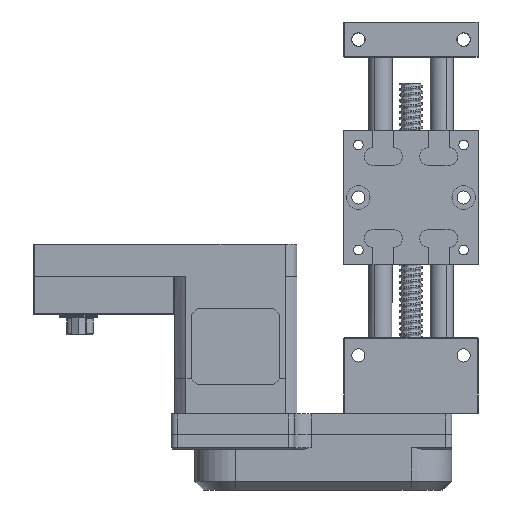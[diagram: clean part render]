
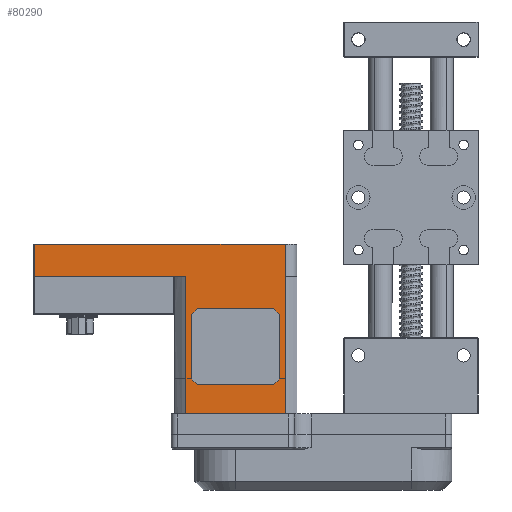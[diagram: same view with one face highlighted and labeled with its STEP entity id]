
A CAD part, front view. The second image highlights one B-rep face of the part: STEP entity #80290.
In plain terms, the highlighted planar face has unit normal (0, -1, 0) as drawn and (-1, 0, 0) by its records, which use the part's own axes.
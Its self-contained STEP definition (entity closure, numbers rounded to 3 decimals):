
#110 = LINE ( 'NONE', #95383, #63717 ) ;
#264 = AXIS2_PLACEMENT_3D ( 'NONE', #50051, #100090, #50771 ) ;
#987 = CARTESIAN_POINT ( 'NONE',  ( -21., 11., -45. ) ) ;
#1000 = FACE_BOUND ( 'NONE', #31227, .T. ) ;
#3005 = CARTESIAN_POINT ( 'NONE',  ( -21., 22., -11. ) ) ;
#3567 = FACE_OUTER_BOUND ( 'NONE', #40753, .T. ) ;
#3728 = DIRECTION ( 'NONE',  ( 0., 0., 1. ) ) ;
#4509 = CARTESIAN_POINT ( 'NONE',  ( -21., 11., -7.029 ) ) ;
#4748 = ORIENTED_EDGE ( 'NONE', *, *, #24970, .T. ) ;
#5518 = VECTOR ( 'NONE', #3728, 1000. ) ;
#6666 = LINE ( 'NONE', #40481, #48309 ) ;
#7644 = ORIENTED_EDGE ( 'NONE', *, *, #45178, .T. ) ;
#7650 = CARTESIAN_POINT ( 'NONE',  ( -21., 0., -7.029 ) ) ;
#8156 = LINE ( 'NONE', #28859, #5518 ) ;
#9013 = DIRECTION ( 'NONE',  ( 0., -1., 0. ) ) ;
#10198 = VECTOR ( 'NONE', #84302, 1000. ) ;
#11152 = CARTESIAN_POINT ( 'NONE',  ( -21., 58., -45. ) ) ;
#13876 = VERTEX_POINT ( 'NONE', #47926 ) ;
#14708 = VECTOR ( 'NONE', #97540, 1000. ) ;
#15670 = ORIENTED_EDGE ( 'NONE', *, *, #93920, .T. ) ;
#16004 = DIRECTION ( 'NONE',  ( 0., 1., 0. ) ) ;
#16561 = ORIENTED_EDGE ( 'NONE', *, *, #43755, .T. ) ;
#16915 = VECTOR ( 'NONE', #19567, 1000. ) ;
#17502 = VERTEX_POINT ( 'NONE', #67533 ) ;
#18711 = CARTESIAN_POINT ( 'NONE',  ( -21., 22., -45. ) ) ;
#19180 = CARTESIAN_POINT ( 'NONE',  ( -21., 0., -41. ) ) ;
#19567 = DIRECTION ( 'NONE',  ( 0., 0., -1. ) ) ;
#21890 = LINE ( 'NONE', #83255, #63383 ) ;
#22248 = LINE ( 'NONE', #51594, #83108 ) ;
#22589 = CARTESIAN_POINT ( 'NONE',  ( -20.999, 24.002, -8.999 ) ) ;
#24970 = EDGE_CURVE ( 'NONE', #17502, #36876, #63575, .T. ) ;
#26265 = EDGE_CURVE ( 'NONE', #44127, #49669, #100788, .T. ) ;
#26712 = CARTESIAN_POINT ( 'NONE',  ( -21., 48., -37. ) ) ;
#27085 = DIRECTION ( 'NONE',  ( 0., 0., -1. ) ) ;
#27488 = DIRECTION ( 'NONE',  ( 0., 0., 1. ) ) ;
#27538 = DIRECTION ( 'NONE',  ( 0., -1., 0. ) ) ;
#28859 = CARTESIAN_POINT ( 'NONE',  ( -21., 0., 0. ) ) ;
#30180 = ORIENTED_EDGE ( 'NONE', *, *, #93456, .T. ) ;
#30730 = LINE ( 'NONE', #26712, #94014 ) ;
#31227 = EDGE_LOOP ( 'NONE', ( #67932, #82572, #7644, #60537, #67137, #4748, #30180, #16561 ) ) ;
#31504 = CARTESIAN_POINT ( 'NONE',  ( -21., 24., -39. ) ) ;
#35124 = VERTEX_POINT ( 'NONE', #66653 ) ;
#36094 = EDGE_CURVE ( 'NONE', #81324, #17502, #41172, .T. ) ;
#36831 = LINE ( 'NONE', #31504, #14708 ) ;
#36876 = VERTEX_POINT ( 'NONE', #78849 ) ;
#38524 = VECTOR ( 'NONE', #102826, 1000. ) ;
#40347 = VECTOR ( 'NONE', #27488, 1000. ) ;
#40481 = CARTESIAN_POINT ( 'NONE',  ( -21., 46.003, -9.003 ) ) ;
#40753 = EDGE_LOOP ( 'NONE', ( #99085, #47659, #65669, #90839, #104300, #15670, #48163, #83682 ) ) ;
#41172 = LINE ( 'NONE', #3005, #38524 ) ;
#41613 = LINE ( 'NONE', #11152, #16915 ) ;
#42400 = PLANE ( 'NONE',  #264 ) ;
#43755 = EDGE_CURVE ( 'NONE', #59157, #83227, #85524, .T. ) ;
#44127 = VERTEX_POINT ( 'NONE', #44831 ) ;
#44831 = CARTESIAN_POINT ( 'NONE',  ( -21., 11., 44.8 ) ) ;
#45178 = EDGE_CURVE ( 'NONE', #81707, #61810, #6666, .T. ) ;
#45673 = CARTESIAN_POINT ( 'NONE',  ( -21., 0., 44.8 ) ) ;
#45806 = EDGE_CURVE ( 'NONE', #49669, #93824, #99799, .T. ) ;
#47659 = ORIENTED_EDGE ( 'NONE', *, *, #67802, .T. ) ;
#47926 = CARTESIAN_POINT ( 'NONE',  ( -21., 58., -40.971 ) ) ;
#48163 = ORIENTED_EDGE ( 'NONE', *, *, #53392, .T. ) ;
#48309 = VECTOR ( 'NONE', #48847, 1000. ) ;
#48847 = DIRECTION ( 'NONE',  ( 0., -0.707, 0.707 ) ) ;
#49669 = VERTEX_POINT ( 'NONE', #4509 ) ;
#50051 = CARTESIAN_POINT ( 'NONE',  ( -21., 0., -45. ) ) ;
#50252 = VERTEX_POINT ( 'NONE', #52428 ) ;
#50771 = DIRECTION ( 'NONE',  ( 0., 0., 1. ) ) ;
#51167 = CARTESIAN_POINT ( 'NONE',  ( -20.999, 46.003, -9.002 ) ) ;
#51594 = CARTESIAN_POINT ( 'NONE',  ( -21., 0., -40.971 ) ) ;
#52428 = CARTESIAN_POINT ( 'NONE',  ( -21., 0., -41. ) ) ;
#52580 = VECTOR ( 'NONE', #53962, 1000. ) ;
#52644 = CARTESIAN_POINT ( 'NONE',  ( -21., 48., -11. ) ) ;
#53238 = EDGE_CURVE ( 'NONE', #60388, #50252, #62908, .T. ) ;
#53392 = EDGE_CURVE ( 'NONE', #82931, #44127, #77114, .T. ) ;
#53962 = DIRECTION ( 'NONE',  ( 0., 1., 0. ) ) ;
#55961 = VECTOR ( 'NONE', #16004, 1000. ) ;
#57872 = CARTESIAN_POINT ( 'NONE',  ( -21., 11., -41. ) ) ;
#59157 = VERTEX_POINT ( 'NONE', #87069 ) ;
#59890 = DIRECTION ( 'NONE',  ( 0., -1., 0. ) ) ;
#60214 = EDGE_CURVE ( 'NONE', #13876, #84737, #22248, .T. ) ;
#60388 = VERTEX_POINT ( 'NONE', #57872 ) ;
#60537 = ORIENTED_EDGE ( 'NONE', *, *, #69317, .T. ) ;
#61810 = VERTEX_POINT ( 'NONE', #51167 ) ;
#62342 = LINE ( 'NONE', #101482, #40347 ) ;
#62908 = LINE ( 'NONE', #19180, #104086 ) ;
#63383 = VECTOR ( 'NONE', #9013, 1000. ) ;
#63575 = LINE ( 'NONE', #18711, #82955 ) ;
#63717 = VECTOR ( 'NONE', #103644, 1000. ) ;
#65669 = ORIENTED_EDGE ( 'NONE', *, *, #60214, .T. ) ;
#66653 = CARTESIAN_POINT ( 'NONE',  ( -21., 48., -37. ) ) ;
#67137 = ORIENTED_EDGE ( 'NONE', *, *, #36094, .T. ) ;
#67334 = EDGE_CURVE ( 'NONE', #60388, #84737, #62342, .T. ) ;
#67533 = CARTESIAN_POINT ( 'NONE',  ( -21., 22., -11. ) ) ;
#67802 = EDGE_CURVE ( 'NONE', #93824, #13876, #41613, .T. ) ;
#67932 = ORIENTED_EDGE ( 'NONE', *, *, #106538, .T. ) ;
#69317 = EDGE_CURVE ( 'NONE', #61810, #81324, #21890, .T. ) ;
#77114 = LINE ( 'NONE', #45673, #52580 ) ;
#77335 = CARTESIAN_POINT ( 'NONE',  ( -21., 58., -7.029 ) ) ;
#78849 = CARTESIAN_POINT ( 'NONE',  ( -21., 22., -37. ) ) ;
#80290 = ADVANCED_FACE ( 'NONE', ( #3567, #1000 ), #42400, .T. ) ;
#81324 = VERTEX_POINT ( 'NONE', #22589 ) ;
#81707 = VERTEX_POINT ( 'NONE', #52644 ) ;
#82572 = ORIENTED_EDGE ( 'NONE', *, *, #95509, .T. ) ;
#82931 = VERTEX_POINT ( 'NONE', #92444 ) ;
#82955 = VECTOR ( 'NONE', #27085, 1000. ) ;
#82985 = VECTOR ( 'NONE', #106126, 1000. ) ;
#83108 = VECTOR ( 'NONE', #59890, 1000. ) ;
#83227 = VERTEX_POINT ( 'NONE', #87348 ) ;
#83255 = CARTESIAN_POINT ( 'NONE',  ( -21., 24., -9. ) ) ;
#83682 = ORIENTED_EDGE ( 'NONE', *, *, #26265, .T. ) ;
#84302 = DIRECTION ( 'NONE',  ( 0., 0., -1. ) ) ;
#84555 = DIRECTION ( 'NONE',  ( 0., 0.707, 0.707 ) ) ;
#84737 = VERTEX_POINT ( 'NONE', #105741 ) ;
#85524 = LINE ( 'NONE', #89255, #82985 ) ;
#87069 = CARTESIAN_POINT ( 'NONE',  ( -20.999, 24.002, -39.001 ) ) ;
#87348 = CARTESIAN_POINT ( 'NONE',  ( -20.999, 46.004, -38.998 ) ) ;
#89255 = CARTESIAN_POINT ( 'NONE',  ( -21., 46., -39. ) ) ;
#90839 = ORIENTED_EDGE ( 'NONE', *, *, #67334, .F. ) ;
#92444 = CARTESIAN_POINT ( 'NONE',  ( -21., 0., 44.8 ) ) ;
#93456 = EDGE_CURVE ( 'NONE', #36876, #59157, #36831, .T. ) ;
#93824 = VERTEX_POINT ( 'NONE', #77335 ) ;
#93920 = EDGE_CURVE ( 'NONE', #50252, #82931, #8156, .T. ) ;
#94014 = VECTOR ( 'NONE', #84555, 1000. ) ;
#95383 = CARTESIAN_POINT ( 'NONE',  ( -21., 48., -45. ) ) ;
#95509 = EDGE_CURVE ( 'NONE', #35124, #81707, #110, .T. ) ;
#97540 = DIRECTION ( 'NONE',  ( 0., 0.707, -0.707 ) ) ;
#99085 = ORIENTED_EDGE ( 'NONE', *, *, #45806, .T. ) ;
#99799 = LINE ( 'NONE', #7650, #55961 ) ;
#100090 = DIRECTION ( 'NONE',  ( -1., 0., 0. ) ) ;
#100788 = LINE ( 'NONE', #987, #10198 ) ;
#101482 = CARTESIAN_POINT ( 'NONE',  ( -21., 11., 0. ) ) ;
#102826 = DIRECTION ( 'NONE',  ( 0., -0.707, -0.707 ) ) ;
#103644 = DIRECTION ( 'NONE',  ( 0., 0., 1. ) ) ;
#104086 = VECTOR ( 'NONE', #27538, 1000. ) ;
#104300 = ORIENTED_EDGE ( 'NONE', *, *, #53238, .T. ) ;
#105741 = CARTESIAN_POINT ( 'NONE',  ( -21., 11., -40.971 ) ) ;
#106126 = DIRECTION ( 'NONE',  ( 0., 1., 0. ) ) ;
#106538 = EDGE_CURVE ( 'NONE', #83227, #35124, #30730, .T. ) ;
